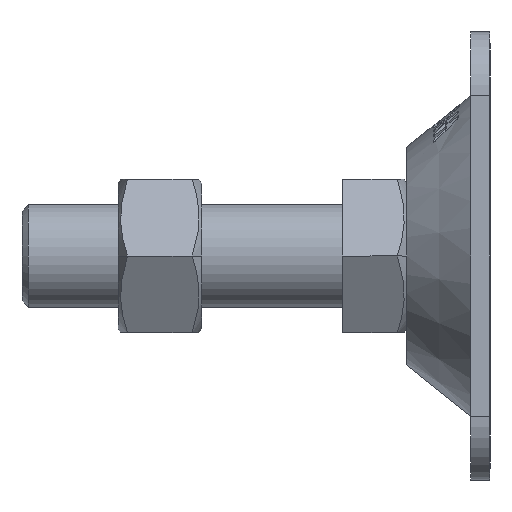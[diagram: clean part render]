
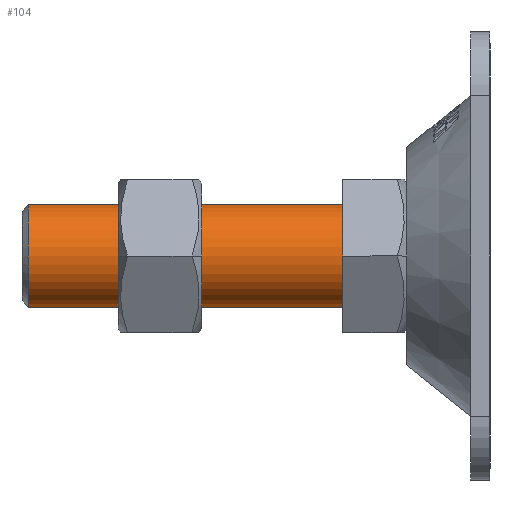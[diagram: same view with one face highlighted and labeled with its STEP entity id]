
A CAD part, left-side view. The second image highlights one B-rep face of the part: STEP entity #104.
In plain terms, the highlighted cylindrical face has radius 8 mm (diameter 16 mm), a partial arc.
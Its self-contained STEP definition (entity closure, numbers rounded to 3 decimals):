
#6 = DIRECTION ( 'NONE',  ( 0., -1., 0. ) ) ;
#64 = CIRCLE ( 'NONE', #5576, 8. ) ;
#87 = DIRECTION ( 'NONE',  ( 0., 1., 0. ) ) ;
#104 = ADVANCED_FACE ( 'NONE', ( #1187 ), #3641, .T. ) ;
#164 = ORIENTED_EDGE ( 'NONE', *, *, #184, .T. ) ;
#184 = EDGE_CURVE ( 'NONE', #3637, #850, #2291, .T. ) ;
#485 = DIRECTION ( 'NONE',  ( 0., 0., 1. ) ) ;
#830 = EDGE_CURVE ( 'NONE', #5779, #3637, #64, .T. ) ;
#850 = VERTEX_POINT ( 'NONE', #5952 ) ;
#915 = CARTESIAN_POINT ( 'NONE',  ( 0., 10., 0. ) ) ;
#934 = CARTESIAN_POINT ( 'NONE',  ( 0., 8., 8. ) ) ;
#1187 = FACE_OUTER_BOUND ( 'NONE', #3994, .T. ) ;
#1203 = DIRECTION ( 'NONE',  ( 0., 0., -1. ) ) ;
#1686 = DIRECTION ( 'NONE',  ( 0., 0., -1. ) ) ;
#2148 = CARTESIAN_POINT ( 'NONE',  ( 0., 10., 8. ) ) ;
#2291 = LINE ( 'NONE', #5558, #5769 ) ;
#2347 = ORIENTED_EDGE ( 'NONE', *, *, #3025, .T. ) ;
#2487 = AXIS2_PLACEMENT_3D ( 'NONE', #915, #87, #485 ) ;
#2508 = VECTOR ( 'NONE', #6, 1000. ) ;
#2697 = DIRECTION ( 'NONE',  ( 0., -1., 0. ) ) ;
#2860 = ORIENTED_EDGE ( 'NONE', *, *, #830, .T. ) ;
#2969 = CARTESIAN_POINT ( 'NONE',  ( 0., 59., -8. ) ) ;
#3025 = EDGE_CURVE ( 'NONE', #850, #5387, #5542, .T. ) ;
#3225 = ORIENTED_EDGE ( 'NONE', *, *, #4732, .F. ) ;
#3276 = LINE ( 'NONE', #934, #2508 ) ;
#3637 = VERTEX_POINT ( 'NONE', #2969 ) ;
#3641 = CYLINDRICAL_SURFACE ( 'NONE', #3815, 8. ) ;
#3727 = DIRECTION ( 'NONE',  ( 0., -1., 0. ) ) ;
#3815 = AXIS2_PLACEMENT_3D ( 'NONE', #5014, #2697, #1686 ) ;
#3994 = EDGE_LOOP ( 'NONE', ( #3225, #2860, #164, #2347 ) ) ;
#4732 = EDGE_CURVE ( 'NONE', #5779, #5387, #3276, .T. ) ;
#4862 = CARTESIAN_POINT ( 'NONE',  ( 0., 59., 8. ) ) ;
#5014 = CARTESIAN_POINT ( 'NONE',  ( 0., 8., 0. ) ) ;
#5025 = DIRECTION ( 'NONE',  ( 0., -1., 0. ) ) ;
#5387 = VERTEX_POINT ( 'NONE', #2148 ) ;
#5542 = CIRCLE ( 'NONE', #2487, 8. ) ;
#5558 = CARTESIAN_POINT ( 'NONE',  ( 0., 8., -8. ) ) ;
#5576 = AXIS2_PLACEMENT_3D ( 'NONE', #6009, #5025, #1203 ) ;
#5769 = VECTOR ( 'NONE', #3727, 1000. ) ;
#5779 = VERTEX_POINT ( 'NONE', #4862 ) ;
#5952 = CARTESIAN_POINT ( 'NONE',  ( 0., 10., -8. ) ) ;
#6009 = CARTESIAN_POINT ( 'NONE',  ( 0., 59., 0. ) ) ;
